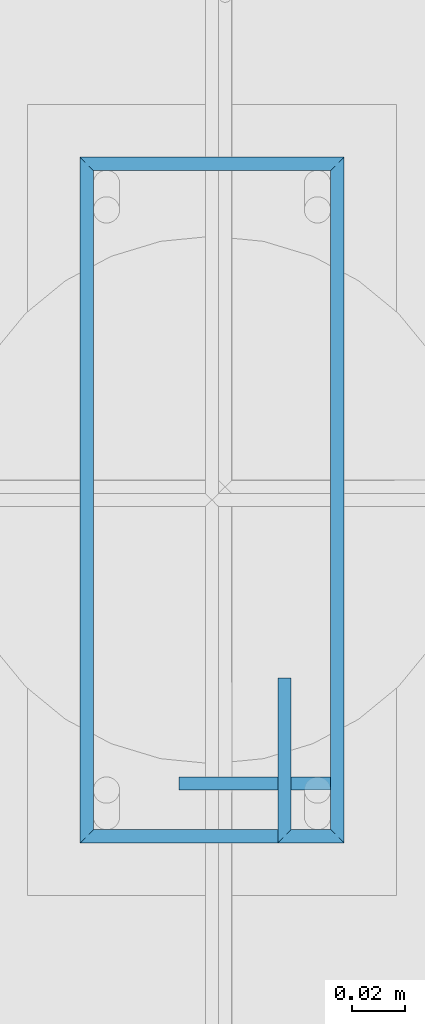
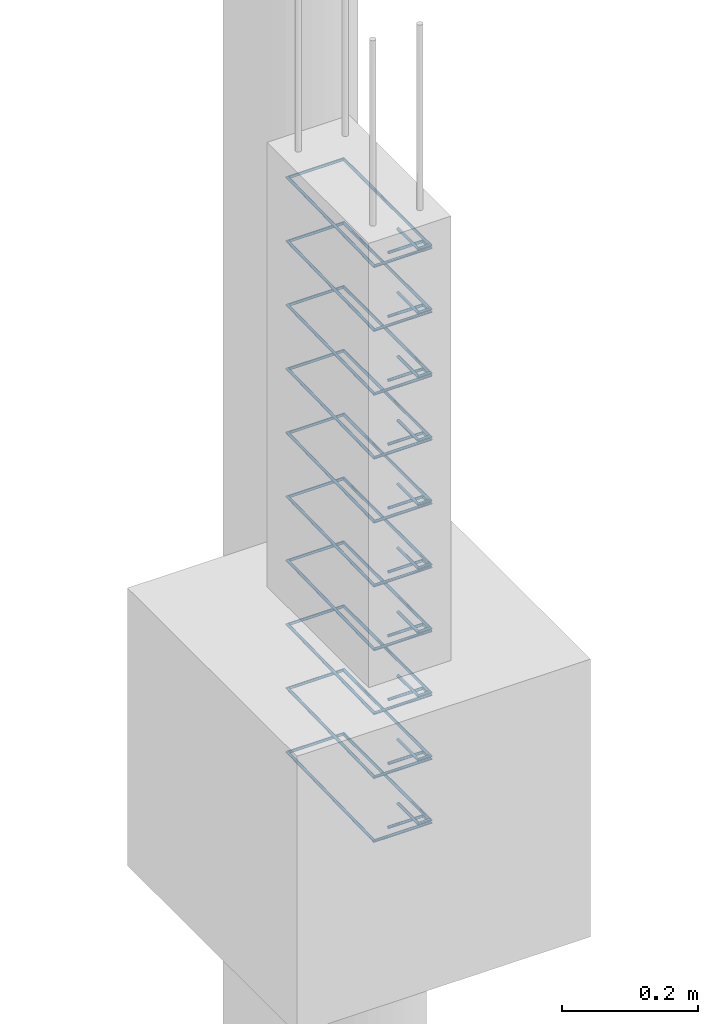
# One storey, part 83 of 119: 10 reinforcing bars.
"""IFC4 building model written with IfcOpenShell, lengths in centimetres."""

from ifc_helpers import new_model, entity, si_unit, derived_unit, frame, origin_with_axes, place, context, project, spatial, source, transform, mapped, element, save


model = new_model("IFC4")

# Units and contexts
model_context = context("Model", 3, precision=1e-05, world=origin_with_axes(), identifier="Body")
ifc_project = project(units=[si_unit("LENGTHUNIT", "METRE", prefix="CENTI"), si_unit("VOLUMEUNIT", "CUBIC_METRE"), si_unit("AREAUNIT", "SQUARE_METRE"), si_unit("POWERUNIT", "WATT"), si_unit("LUMINOUSFLUXUNIT", "LUMEN"), si_unit("ELECTRICCURRENTUNIT", "AMPERE"), si_unit("PRESSUREUNIT", "PASCAL", prefix="KILO"), si_unit("MASSUNIT", "GRAM", prefix="KILO"), si_unit("PLANEANGLEUNIT", "RADIAN"), derived_unit("VOLUMETRICFLOWRATEUNIT", [(si_unit("LENGTHUNIT", "METRE"), 3), (si_unit("TIMEUNIT", "SECOND"), -1)])], contexts=[model_context])

# Site, building, storey
site_placement = place(None, frame((-4000.0, 0.0, 0.0), z_axis=(0.0, 0.0, 1.0), x_axis=(1.0, 0.0, 0.0)))
site = spatial("IfcSite", under=ifc_project, at=site_placement, Name="PADRÃO")
building_placement = place(site_placement, frame((0.0, 0.0, -14.0)))
building = spatial("IfcBuilding", under=site, at=building_placement, Name="CRECHE PRÉ-ESCOLA TIPO 2")
storey_placement = place(building_placement, origin_with_axes())
storey = spatial("IfcBuildingStorey", under=building, at=storey_placement, Name="FUNDAÇÃO", CompositionType="ELEMENT", Elevation=-14.0)

# Reinforcing bars
shared_shape = source(origin_with_axes(), model_context, "Body", "AdvancedSweptSolid", [
    entity("IfcSweptDiskSolid", entity("IfcCompositeCurve", [entity("IfcCompositeCurveSegment", "CONTINUOUS", True, entity("IfcPolyline", [entity("IfcCartesianPoint", [4.25, 21.75, 0.0]), entity("IfcCartesianPoint", [4.25, 27.75, 0.0])])), entity("IfcCompositeCurveSegment", "CONTINUOUS", True, entity("IfcPolyline", [entity("IfcCartesianPoint", [4.25, 27.75, 0.0]), entity("IfcCartesianPoint", [2.25, 27.75, 0.0])])), entity("IfcCompositeCurveSegment", "CONTINUOUS", True, entity("IfcPolyline", [entity("IfcCartesianPoint", [2.25, 27.75, 0.0]), entity("IfcCartesianPoint", [2.25, 2.25, 0.0])])), entity("IfcCompositeCurveSegment", "CONTINUOUS", True, entity("IfcPolyline", [entity("IfcCartesianPoint", [2.25, 2.25, 0.0]), entity("IfcCartesianPoint", [11.75, 2.25, 0.0])])), entity("IfcCompositeCurveSegment", "CONTINUOUS", True, entity("IfcPolyline", [entity("IfcCartesianPoint", [11.75, 2.25, 0.0]), entity("IfcCartesianPoint", [11.75, 27.75, -0.5])])), entity("IfcCompositeCurveSegment", "CONTINUOUS", True, entity("IfcPolyline", [entity("IfcCartesianPoint", [11.75, 27.75, -0.5]), entity("IfcCartesianPoint", [2.25, 27.75, -0.5])])), entity("IfcCompositeCurveSegment", "CONTINUOUS", True, entity("IfcPolyline", [entity("IfcCartesianPoint", [2.25, 27.75, -0.5]), entity("IfcCartesianPoint", [2.25, 25.75, -0.5])])), entity("IfcCompositeCurveSegment", "CONTINUOUS", True, entity("IfcPolyline", [entity("IfcCartesianPoint", [2.25, 25.75, -0.5]), entity("IfcCartesianPoint", [8.25, 25.75, -0.5])]))], False), 0.25),
])
for number, where, z_axis, x_axis, name in (
    (1, (3145.5, 1404.52, -97.75), (0.0, 0.0, 1.0), (-1.0, 0.0, 0.0), "P105 - Estribo"),
    (2, (3145.5, 1404.52, -109.25), (0.0, 0.0, 1.0), (-1.0, 0.0, 0.0), "P105 - Estribo"),
    (3, (3145.5, 1404.52, -40.25), (0.0, 0.0, 1.0), (-1.0, 0.0, 0.0), "P105 - Estribo"),
    (4, (3145.5, 1404.52, -5.75), (0.0, 0.0, 1.0), (-1.0, 0.0, 0.0), "P105 - Estribo"),
    (5, (3145.5, 1404.52, -28.75), (0.0, 0.0, 1.0), (-1.0, 0.0, 0.0), "P105 - Estribo"),
    (6, (3145.5, 1404.52, -63.25), (0.0, 0.0, 1.0), (-1.0, 0.0, 0.0), "P105 - Estribo"),
    (7, (3145.5, 1404.52, -51.75), (0.0, 0.0, 1.0), (-1.0, 0.0, 0.0), "P105 - Estribo"),
    (8, (3145.5, 1404.52, -17.25), (0.0, 0.0, 1.0), (-1.0, 0.0, 0.0), "P105 - Estribo"),
    (9, (3145.5, 1404.52, -74.75), (0.0, 0.0, 1.0), (-1.0, 0.0, 0.0), "P105 - Estribo"),
    (10, (3145.5, 1404.52, -86.25), (0.0, 0.0, 1.0), (-1.0, 0.0, 0.0), "P105 - Estribo"),
):
    element("IfcReinforcingBar", number, at=place(storey_placement, frame(where, z_axis=z_axis, x_axis=x_axis)), inside=storey, Name=name, BarLength=0.0, CrossSectionArea=1.9634954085e-05, NominalDiameter=0.5, PredefinedType="MAIN", context=model_context, shape_type="MappedRepresentation", body=[
        mapped(shared_shape, transform((0.0, 0.0, 0.0), scale=1.0)),
    ])

save(model, "model.ifc")
